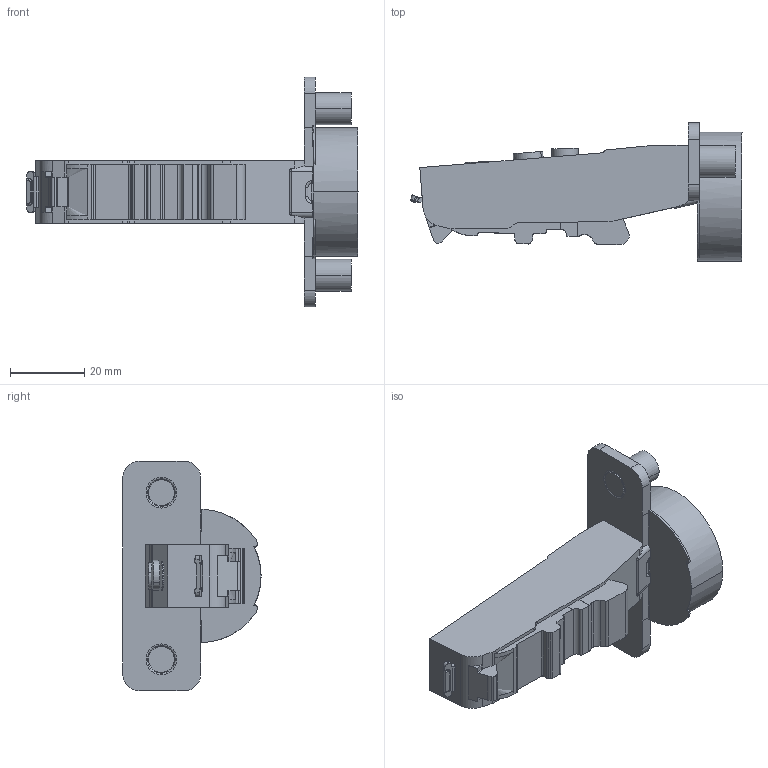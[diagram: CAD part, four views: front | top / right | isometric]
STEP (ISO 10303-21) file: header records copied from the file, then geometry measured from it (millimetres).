
FILE_DESCRIPTION (( 'STEP AP203' ), '1' );
FILE_NAME ('C81B875NFAB DTC 3D CLOSE.STEP', '2024-07-24T08:16:11', ( '微软用户' ), ( '微软中国' ), 'SwSTEP 2.0', 'SolidWorks 2021', '' );
FILE_SCHEMA (( 'CONFIG_CONTROL_DESIGN' ));
Length unit declared in the file: millimetre
Products named in the file (1): C81B875NFAB DTC 3D CLOSE
Bounding box: 89.61 x 37.33 x 62 mm (x, y, z)
Volume: 40489.9 mm3; surface area: 11608.3 mm2
Topology: 1 solids, 1 shells, 248 faces, 717 edges, 479 vertices
Faces by surface type: cylinder 110, plane 99, torus 20, bspline 15, cone 4
Entity records: 8952 total; most frequent: CARTESIAN_POINT 2422, ORIENTED_EDGE 1434, DIRECTION 1301, EDGE_CURVE 717, VERTEX_POINT 479, AXIS2_PLACEMENT_3D 477, VECTOR 347, LINE 347
